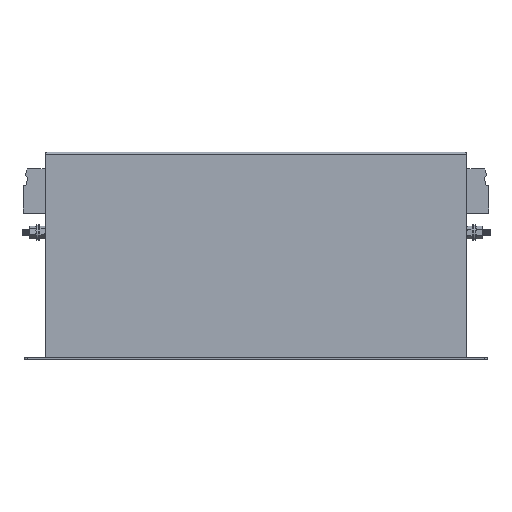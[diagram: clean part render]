
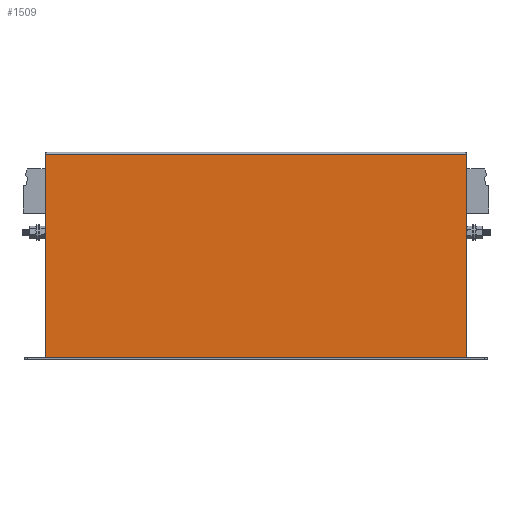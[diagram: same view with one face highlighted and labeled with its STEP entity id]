
A CAD part, top view. The second image highlights one B-rep face of the part: STEP entity #1509.
In plain terms, the highlighted planar face has unit normal (0, 0, 1).
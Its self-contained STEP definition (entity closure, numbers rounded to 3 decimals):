
#230 = FACE_OUTER_BOUND ( 'NONE', #8739, .T. ) ;
#432 = LINE ( 'NONE', #2556, #7412 ) ;
#484 = ORIENTED_EDGE ( 'NONE', *, *, #3507, .T. ) ;
#749 = CARTESIAN_POINT ( 'NONE',  ( 15., 148.5, 1.5 ) ) ;
#1463 = EDGE_CURVE ( 'NONE', #2918, #4619, #8138, .T. ) ;
#1509 = ADVANCED_FACE ( 'NONE', ( #230 ), #5450, .F. ) ;
#1883 = CARTESIAN_POINT ( 'NONE',  ( 15., 150., 1.5 ) ) ;
#2068 = DIRECTION ( 'NONE',  ( 0., 0., -1. ) ) ;
#2107 = EDGE_CURVE ( 'NONE', #3682, #4619, #432, .T. ) ;
#2283 = CARTESIAN_POINT ( 'NONE',  ( 15., 148.5, 1.5 ) ) ;
#2556 = CARTESIAN_POINT ( 'NONE',  ( 320., 150., 1.5 ) ) ;
#2757 = DIRECTION ( 'NONE',  ( 1., 0., 0. ) ) ;
#2918 = VERTEX_POINT ( 'NONE', #7296 ) ;
#3041 = VECTOR ( 'NONE', #7389, 1000. ) ;
#3507 = EDGE_CURVE ( 'NONE', #3682, #5353, #7289, .T. ) ;
#3682 = VERTEX_POINT ( 'NONE', #6727 ) ;
#3755 = AXIS2_PLACEMENT_3D ( 'NONE', #6156, #2068, #7488 ) ;
#4117 = EDGE_CURVE ( 'NONE', #5353, #2918, #5792, .T. ) ;
#4619 = VERTEX_POINT ( 'NONE', #4817 ) ;
#4817 = CARTESIAN_POINT ( 'NONE',  ( 320., 1.5, 1.5 ) ) ;
#5353 = VERTEX_POINT ( 'NONE', #749 ) ;
#5365 = ORIENTED_EDGE ( 'NONE', *, *, #2107, .F. ) ;
#5450 = PLANE ( 'NONE',  #3755 ) ;
#5792 = LINE ( 'NONE', #1883, #3041 ) ;
#6156 = CARTESIAN_POINT ( 'NONE',  ( 15., 150., 1.5 ) ) ;
#6668 = ORIENTED_EDGE ( 'NONE', *, *, #4117, .T. ) ;
#6721 = DIRECTION ( 'NONE',  ( 0., -1., 0. ) ) ;
#6727 = CARTESIAN_POINT ( 'NONE',  ( 320., 148.5, 1.5 ) ) ;
#7030 = DIRECTION ( 'NONE',  ( -1., 0., 0. ) ) ;
#7133 = ORIENTED_EDGE ( 'NONE', *, *, #1463, .T. ) ;
#7213 = VECTOR ( 'NONE', #2757, 1000. ) ;
#7289 = LINE ( 'NONE', #2283, #8534 ) ;
#7296 = CARTESIAN_POINT ( 'NONE',  ( 15., 1.5, 1.5 ) ) ;
#7389 = DIRECTION ( 'NONE',  ( 0., -1., 0. ) ) ;
#7412 = VECTOR ( 'NONE', #6721, 1000. ) ;
#7488 = DIRECTION ( 'NONE',  ( -1., 0., 0. ) ) ;
#8122 = CARTESIAN_POINT ( 'NONE',  ( 15., 1.5, 1.5 ) ) ;
#8138 = LINE ( 'NONE', #8122, #7213 ) ;
#8534 = VECTOR ( 'NONE', #7030, 1000. ) ;
#8739 = EDGE_LOOP ( 'NONE', ( #5365, #484, #6668, #7133 ) ) ;
